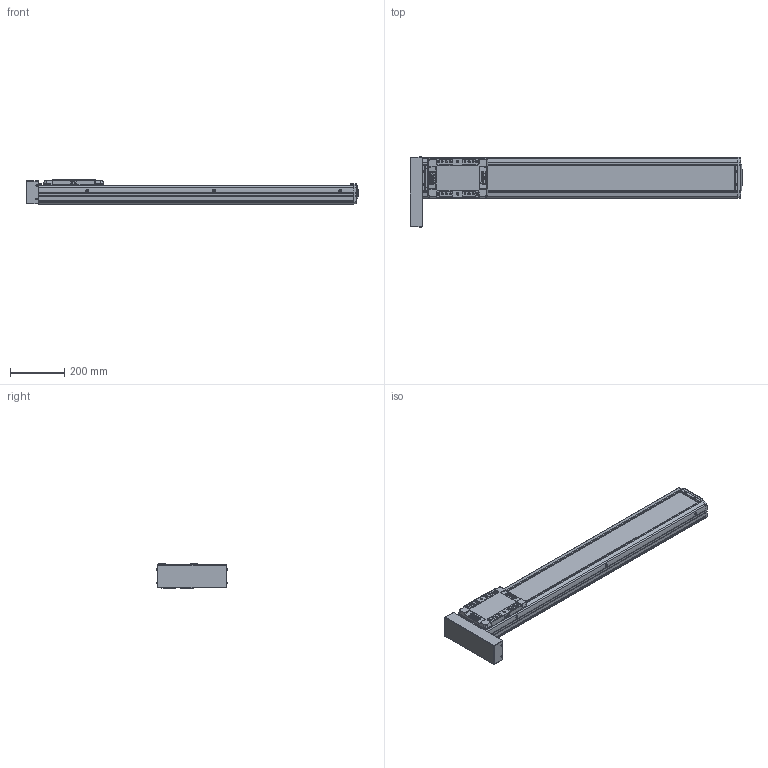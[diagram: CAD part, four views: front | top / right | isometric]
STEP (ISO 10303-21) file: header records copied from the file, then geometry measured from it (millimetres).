
FILE_DESCRIPTION(('STEP AP214'),'1');
FILE_NAME('Z:/Web/3D/SAN150/2013.04 (STP.)/SAN150ㅁㅁ-900PR.stp','2013-05-07T10:46:55',(' '),(' '),'Spatial InterOp 3D',' ',' ');
FILE_SCHEMA(('automotive_design'));
Length unit declared in the file: millimetre
Products named in the file (42): SLBL-SAN150; SLCV-SAN150; FHCS M4.0 x 8.0; BHCS M4.0 x 10.0; SFX-SAN150; RRCV-SAN150; FRBL-SAN150; Spacer; RN15; FRCV-SAN150; Screw 20; BASE-SAN150-000L ; SUS COVER; 스크루 : Round - M5.0 x 6.0; BHCS M3.0 x 6.0; P
Bounding box: 1220 x 260.73 x 90 mm (x, y, z)
Volume: 7322676.5 mm3; surface area: 1259812.7 mm2
Topology: 42 solids, 42 shells, 2263 faces, 5805 edges, 3690 vertices
Faces by surface type: plane 1063, cylinder 817, cone 286, sphere 64, bspline 21, torus 12
Entity records: 89838 total; most frequent: CARTESIAN_POINT 14854, DIRECTION 12348, ORIENTED_EDGE 11346, EDGE_CURVE 5673, AXIS2_PLACEMENT_3D 4491, VERTEX_POINT 3690, LINE 3366, VECTOR 3366
